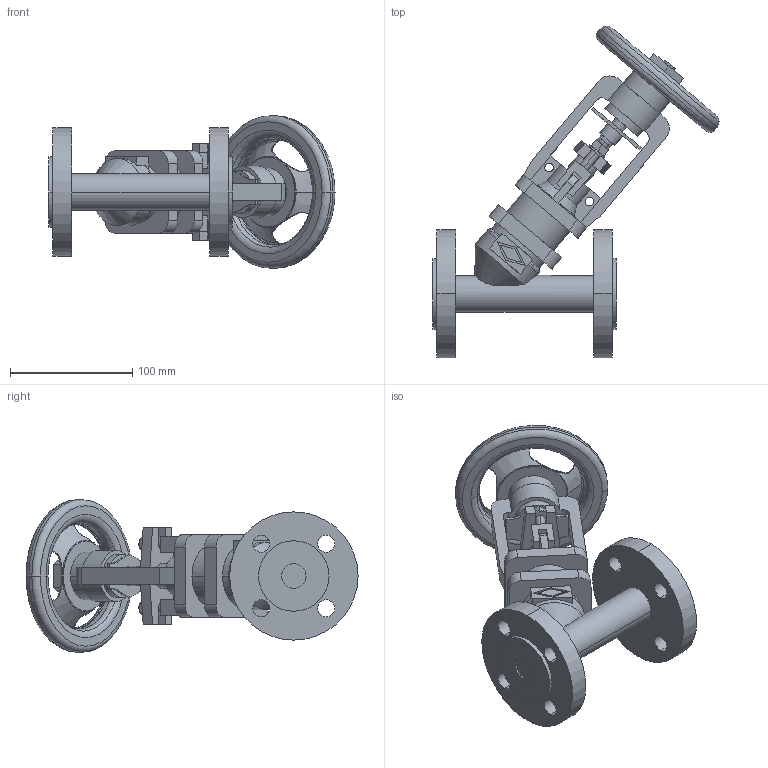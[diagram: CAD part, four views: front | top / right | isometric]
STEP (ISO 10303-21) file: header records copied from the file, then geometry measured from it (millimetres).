
FILE_DESCRIPTION(('OneSpaceDesigner STEP Export'),'2;1');
FILE_NAME('c000004391.stp','2010-05-07T 9:35:40',(''),(''),'OneSpace Designer STEP processor for AP214 (Solid Model)','OneSpace Modeling 15.50B 03-Nov-2007 (C) CoCreate Software GmbH','');
FILE_SCHEMA(('AUTOMOTIVE_DESIGN { 1 0 10303 214 1 1 1 1 }'));
Length unit declared in the file: millimetre
Products named in the file (1): 1
Bounding box: 234.05 x 271.59 x 125 mm (x, y, z)
Volume: 824462.7 mm3; surface area: 153361 mm2
Topology: 1 solids, 1 shells, 293 faces, 776 edges, 508 vertices
Faces by surface type: plane 140, cylinder 111, torus 27, cone 15
Entity records: 11377 total; most frequent: CARTESIAN_POINT 2155, ORIENTED_EDGE 1544, DIRECTION 1274, EDGE_CURVE 772, VERTEX_POINT 504, AXIS2_PLACEMENT_3D 427, VECTOR 420, LINE 420
